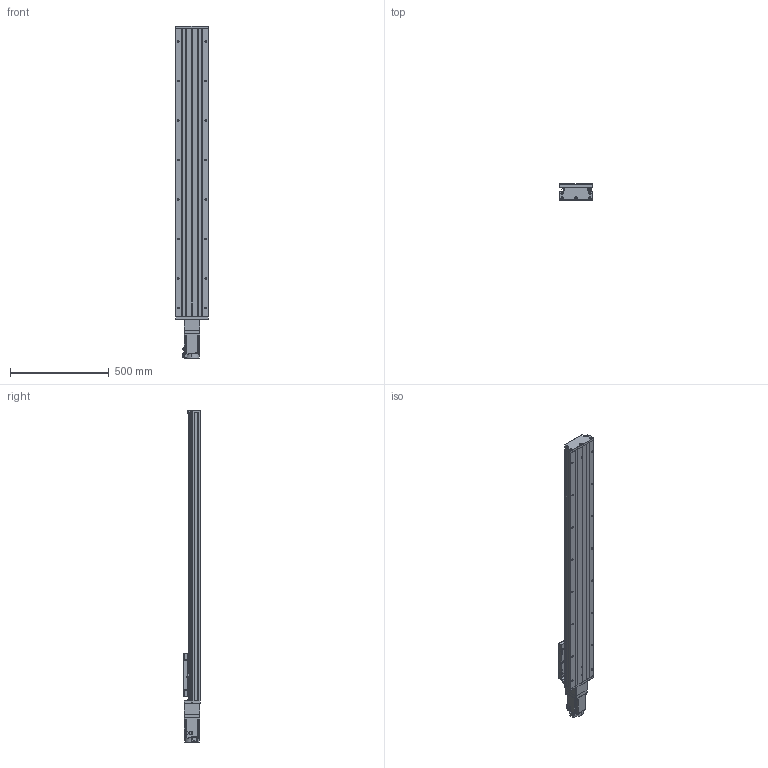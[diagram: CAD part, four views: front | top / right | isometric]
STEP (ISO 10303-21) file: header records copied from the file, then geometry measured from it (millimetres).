
FILE_DESCRIPTION (( 'STEP AP203' ), '1' );
FILE_NAME ('GTH17-1200-BC-M75-C4.step', '2023-06-30T11:20:21', ( '微软用户' ), ( '微软中国' ), 'SwSTEP 2.0', 'SolidWorks 2020', '' );
FILE_SCHEMA (( 'CONFIG_CONTROL_DESIGN' ));
Length unit declared in the file: millimetre
Products named in the file (20): EE_SX911P_R; す晦芛蹟隊 M3℅5; GTH17-001_1200; CTHA60-016; GBT 70.3-M3℅8; GTH17-002_GTH17-002; GBT 70.1-M3℅5; GTH17-006-2_M75; GTH17-004; GBT77-2000 M3×3; GTH17-013; GTH17-005; GBT 70.1-M6¡Á20_M6¡Á20; GTH17-027-1; GB1155-6X6; GTH17-031; HG-KN73J-S100; CTHA60-017; GBT 70.2-M3¡Á5_M3¡Á6; GTH17-1200-BC-M75-C4
Assembly tree (57 placements, depth 2):
  GTH17-1200-BC-M75-C4
    GTH17-001_1200
    GTH17-002_GTH17-002
    GTH17-004
    GTH17-005
    GB1155-6X6  x2
    CTHA60-017  x3
    EE_SX911P_R  x3
    CTHA60-016  x2
    GBT 70.1-M3℅5  x6
    GBT77-2000 M3×3  x6
    GBT 70.1-M6¡Á20_M6¡Á20  x10
    GTH17-031
    GBT 70.2-M3¡Á5_M3¡Á6  x8
    す晦芛蹟隊 M3℅5  x6
    GBT 70.3-M3℅8  x2
    GTH17-006-2_M75
    GTH17-013
    GTH17-027-1
    HG-KN73J-S100
Bounding box: 171 x 87 x 1681.2 mm (x, y, z)
Volume: 12609758.8 mm3; surface area: 1565402.5 mm2
Topology: 60 solids, 60 shells, 2434 faces, 5821 edges, 3611 vertices
Faces by surface type: plane 1309, cylinder 678, cone 287, torus 120, sphere 20, bspline 20
Entity records: 45761 total; most frequent: CARTESIAN_POINT 10527, DIRECTION 6657, ORIENTED_EDGE 6558, EDGE_CURVE 3279, AXIS2_PLACEMENT_3D 2275, LINE 2107, VECTOR 2107, VERTEX_POINT 2079
